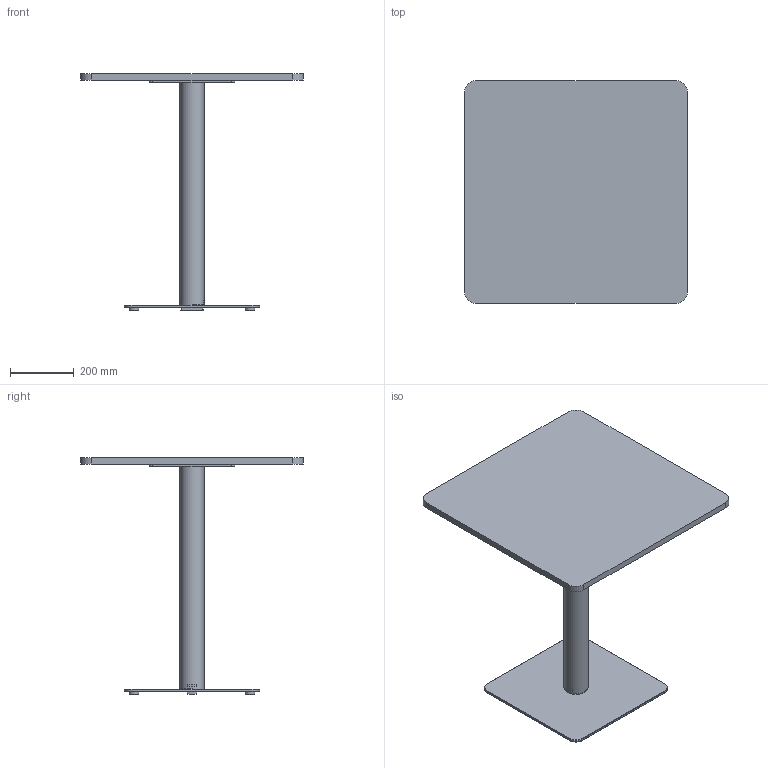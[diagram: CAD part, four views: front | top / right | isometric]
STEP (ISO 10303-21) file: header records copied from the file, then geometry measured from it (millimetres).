
FILE_DESCRIPTION( ('This file contains a STEP AP42 implementation' ,'as created by ZW3D STEP Interface translator.') ,'2;1' );
FILE_NAME( 'Henri - B_Carré - F3 - M1 - 700 x 700 x 750.stp' ,'24 912.17 446', (''), ('ZWCAD Software Co.'), 'Version 1.0', 'ZW3D to STEP translator', '' );
FILE_SCHEMA(('AUTOMOTIVE_DESIGN { 1 0 10303 214 1 1 1 1 }'));
Length unit declared in the file: millimetre
Products named in the file (14): 0; PIED BISTROT PARAMETRIQUE_; COLONNE ACIER Ø76 V.02_; TUB-D076-02_; PLA-R76B-01_; CROIX ACIER 370 V.02_; CRX-X370-02_; SOCLE ACIER L 425x425 V.02_; SCL-R425-02_; PLA-R30A-01_; PLA-R30A-01; WUERTH 0276063020 Euro-screw 6.3x2 Verzinkt_; PLATEAU BISTROT PARAMETRIQUE_; insert_m6_13_
Assembly tree (22 placements, depth 3):
  0
  PIED BISTROT PARAMETRIQUE_
    COLONNE ACIER Ø76 V.02_
      TUB-D076-02_
      PLA-R76B-01_  x2
    CROIX ACIER 370 V.02_
      CRX-X370-02_
    SOCLE ACIER L 425x425 V.02_
      SCL-R425-02_
      PLA-R30A-01_
      PLA-R30A-01  x3
    WUERTH 0276063020 Euro-screw 6.3x2 Verzinkt_
    PLATEAU BISTROT PARAMETRIQUE_
      insert_m6_13_  x8
Bounding box: 700 x 700 x 744 mm (x, y, z)
Volume: 12156770.4 mm3; surface area: 1925979.4 mm2
Topology: 19 solids, 19 shells, 521 faces, 1278 edges, 806 vertices
Faces by surface type: plane 254, bspline 121, cylinder 98, cone 47, torus 1
Full cylindrical faces by diameter (mm): 4.88 x1, 6 x8, 6.3 x1, 8 x45, 12 x2, 14 x2, 30 x4, 72 x1, 76 x1
Entity records: 11902 total; most frequent: CARTESIAN_POINT 3332, ORIENTED_EDGE 1560, DIRECTION 1447, EDGE_CURVE 780, VERTEX_POINT 502, VECTOR 489, LINE 489, AXIS2_PLACEMENT_3D 479
